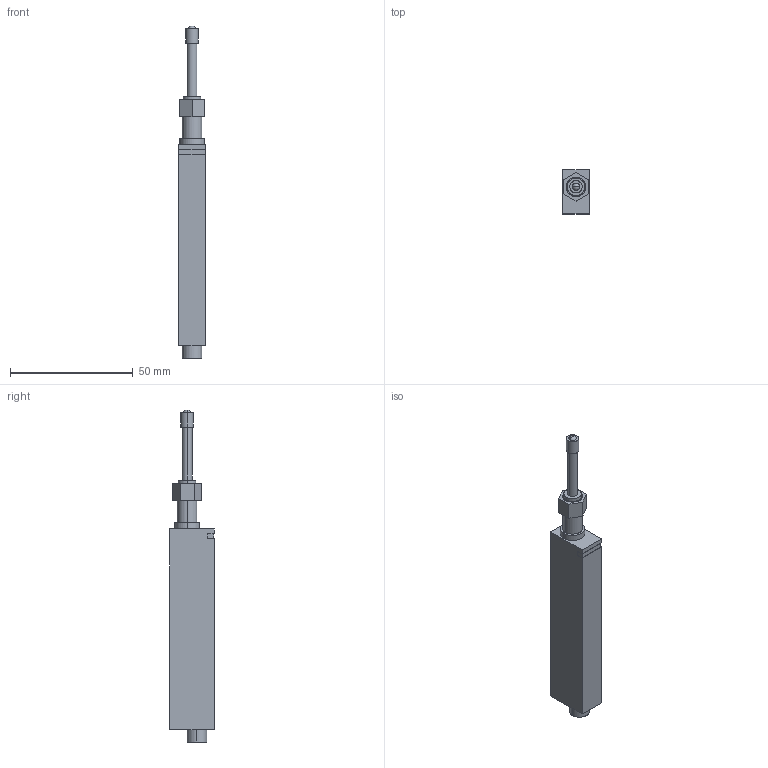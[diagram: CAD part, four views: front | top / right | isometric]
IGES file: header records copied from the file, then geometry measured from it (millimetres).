
Start section: SolidWorks IGES file using analytic representation for surfaces
Global section: file name: C:\catalog\hg-s1010r.IGS; native system: SolidWorks 2010; preprocessor: SolidWorks 2010; author: 90C1158; date: 151005.115046; units: millimetre
Bounding box: 11 x 18 x 135.5 mm (x, y, z)
Surface area: 6871.2 mm2 (no closed solid volume)
Topology: 0 solids, 0 shells, 52 faces, 796 edges, 795 vertices
Faces by surface type: bspline 32, revolution 20
